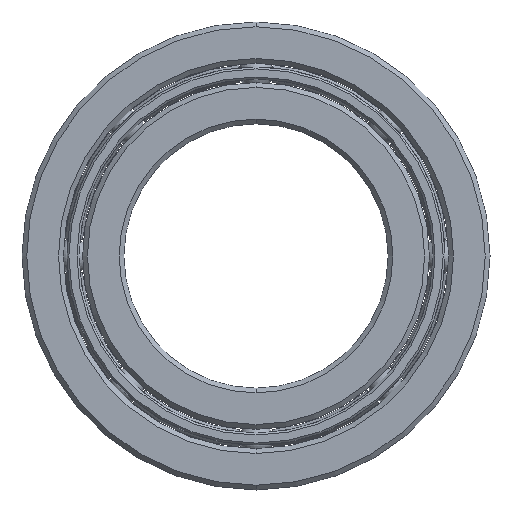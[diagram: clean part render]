
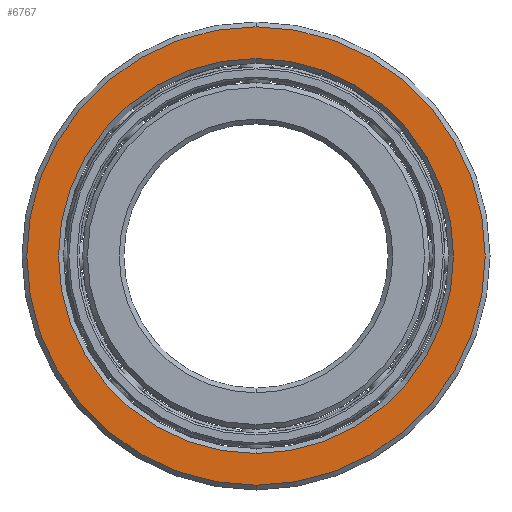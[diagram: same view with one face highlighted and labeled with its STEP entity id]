
A CAD part, front view. The second image highlights one B-rep face of the part: STEP entity #6767.
In plain terms, the highlighted planar face has unit normal (0, -1, 0).
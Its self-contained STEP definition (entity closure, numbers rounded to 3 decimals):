
#24 = CARTESIAN_POINT ( 'NONE',  ( 0., -4.5, 0. ) ) ;
#364 = CARTESIAN_POINT ( 'NONE',  ( 0., -4.5, 30.37 ) ) ;
#762 = EDGE_CURVE ( 'NONE', #3042, #8397, #4687, .T. ) ;
#1341 = DIRECTION ( 'NONE',  ( 0., 0., -1. ) ) ;
#1933 = AXIS2_PLACEMENT_3D ( 'NONE', #3194, #9159, #1341 ) ;
#2149 = FACE_BOUND ( 'NONE', #3159, .T. ) ;
#2309 = DIRECTION ( 'NONE',  ( 0., -1., 0. ) ) ;
#2385 = ORIENTED_EDGE ( 'NONE', *, *, #762, .T. ) ;
#2454 = DIRECTION ( 'NONE',  ( 0., 1., 0. ) ) ;
#2457 = ORIENTED_EDGE ( 'NONE', *, *, #3746, .T. ) ;
#3042 = VERTEX_POINT ( 'NONE', #364 ) ;
#3159 = EDGE_LOOP ( 'NONE', ( #7999, #2457 ) ) ;
#3194 = CARTESIAN_POINT ( 'NONE',  ( 0., -4.5, 0. ) ) ;
#3202 = CARTESIAN_POINT ( 'NONE',  ( 0., -4.5, -30.37 ) ) ;
#3553 = DIRECTION ( 'NONE',  ( 0., -1., 0. ) ) ;
#3746 = EDGE_CURVE ( 'NONE', #10403, #8652, #7857, .T. ) ;
#3888 = EDGE_LOOP ( 'NONE', ( #2385, #4064 ) ) ;
#4064 = ORIENTED_EDGE ( 'NONE', *, *, #4314, .T. ) ;
#4090 = DIRECTION ( 'NONE',  ( 0., 0., -1. ) ) ;
#4314 = EDGE_CURVE ( 'NONE', #8397, #3042, #8392, .T. ) ;
#4457 = DIRECTION ( 'NONE',  ( 0., 0., -1. ) ) ;
#4687 = CIRCLE ( 'NONE', #10312, 30.37 ) ;
#5141 = DIRECTION ( 'NONE',  ( 0., 0., -1. ) ) ;
#5318 = CARTESIAN_POINT ( 'NONE',  ( 0., -4.5, 0. ) ) ;
#5975 = CARTESIAN_POINT ( 'NONE',  ( 0., -4.5, 26.168 ) ) ;
#6500 = FACE_OUTER_BOUND ( 'NONE', #3888, .T. ) ;
#6563 = AXIS2_PLACEMENT_3D ( 'NONE', #5318, #10470, #4457 ) ;
#6663 = CARTESIAN_POINT ( 'NONE',  ( 0., -4.5, 0. ) ) ;
#6767 = ADVANCED_FACE ( 'NONE', ( #2149, #6500 ), #9988, .T. ) ;
#7821 = CIRCLE ( 'NONE', #6563, 26.168 ) ;
#7856 = AXIS2_PLACEMENT_3D ( 'NONE', #24, #3553, #8835 ) ;
#7857 = CIRCLE ( 'NONE', #9293, 26.168 ) ;
#7999 = ORIENTED_EDGE ( 'NONE', *, *, #8125, .T. ) ;
#8125 = EDGE_CURVE ( 'NONE', #8652, #10403, #7821, .T. ) ;
#8389 = CARTESIAN_POINT ( 'NONE',  ( 0., -4.5, 0. ) ) ;
#8392 = CIRCLE ( 'NONE', #7856, 30.37 ) ;
#8397 = VERTEX_POINT ( 'NONE', #3202 ) ;
#8652 = VERTEX_POINT ( 'NONE', #8822 ) ;
#8822 = CARTESIAN_POINT ( 'NONE',  ( 0., -4.5, -26.168 ) ) ;
#8835 = DIRECTION ( 'NONE',  ( 0., 0., -1. ) ) ;
#9159 = DIRECTION ( 'NONE',  ( 0., -1., 0. ) ) ;
#9293 = AXIS2_PLACEMENT_3D ( 'NONE', #8389, #2454, #5141 ) ;
#9988 = PLANE ( 'NONE',  #1933 ) ;
#10312 = AXIS2_PLACEMENT_3D ( 'NONE', #6663, #2309, #4090 ) ;
#10403 = VERTEX_POINT ( 'NONE', #5975 ) ;
#10470 = DIRECTION ( 'NONE',  ( 0., 1., 0. ) ) ;
